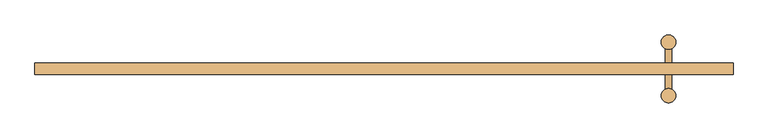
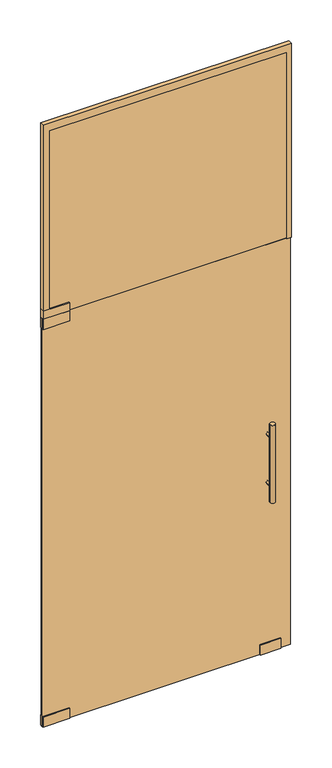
"""IFC4 building model written with IfcOpenShell, lengths in millimetres: door geometry, V03 VIDRIO PUERTA BATIENTE VIDRIO FIJO SUPERIOR : V03.2 VIDRIO PUERTA BATIENTE VIDRIO FIJO SUPERIOR 105x310."""

from ifc_helpers import new_model, si_unit, point, frame, frame_2d, origin, origin_with_axes, place, context, project, spatial, polyline, circle_curve, trimmed, segment, composite_curve, outline, extrude, source, transform, mapped, element, save


def door_8208235d(model_context):
    return source(origin(), model_context, "Body", "SweptSolid", [
        extrude(outline(polyline([(-665.0, -10.0), (-795.0, -10.0), (-795.0, 10.0), (-665.0, 10.0), (-665.0, -10.0)])), frame((0.0, 0.0, 2048.0), z_axis=(0.0, 0.0, 1.0), x_axis=(1.0, 0.0, 0.0)), (0.0, 0.0, 1.0), 52.0),
        extrude(outline(polyline([(-665.0, -10.0), (-795.0, -10.0), (-795.0, 10.0), (-665.0, 10.0), (-665.0, -10.0)])), frame((0.0, 0.0, 2100.0), z_axis=(0.0, 0.0, 1.0), x_axis=(1.0, 0.0, 0.0)), (0.0, 0.0, 1.0), 42.0),
        extrude(outline(composite_curve([segment(trimmed(circle_curve(frame_2d((1125.0, 303.0)), 6.0), [point((1125.0, 297.0))], [point((1125.0, 309.0))], False, "CARTESIAN"), True, "CONTINUOUS"), segment(trimmed(circle_curve(frame_2d((1125.0, 303.0)), 6.0), [point((1125.0, 309.0))], [point((1125.0, 297.0))], False, "CARTESIAN"), True, "CONTINUOUS")], self_intersect=False)), frame((0.0, -36.0, 0.0), z_axis=(0.0, 1.0, 0.0), x_axis=(0.0, 0.0, 1.0)), (0.0, 0.0, 1.0), 72.0),
        extrude(outline(composite_curve([segment(trimmed(circle_curve(frame_2d((875.0, 303.0)), 6.0), [point((875.0, 297.0))], [point((875.0, 309.0))], False, "CARTESIAN"), True, "CONTINUOUS"), segment(trimmed(circle_curve(frame_2d((875.0, 303.0)), 6.0), [point((875.0, 309.0))], [point((875.0, 297.0))], False, "CARTESIAN"), True, "CONTINUOUS")], self_intersect=False)), frame((0.0, -36.0, 0.0), z_axis=(0.0, 1.0, 0.0), x_axis=(0.0, 0.0, 1.0)), (0.0, 0.0, 1.0), 72.0),
        extrude(outline(composite_curve([segment(trimmed(circle_curve(frame_2d((303.0, 46.5)), 12.5), [point((290.5, 46.5))], [point((315.5, 46.5))], False, "CARTESIAN"), True, "CONTINUOUS"), segment(trimmed(circle_curve(frame_2d((303.0, 46.5)), 12.5), [point((315.5, 46.5))], [point((290.5, 46.5))], False, "CARTESIAN"), True, "CONTINUOUS")], self_intersect=False)), frame((0.0, 0.0, 800.0), z_axis=(0.0, 0.0, 1.0), x_axis=(1.0, 0.0, 0.0)), (0.0, 0.0, 1.0), 400.0),
        extrude(outline(composite_curve([segment(trimmed(circle_curve(frame_2d((303.0, -46.5)), 12.5), [point((290.5, -46.5))], [point((315.5, -46.5))], False, "CARTESIAN"), True, "CONTINUOUS"), segment(trimmed(circle_curve(frame_2d((303.0, -46.5)), 12.5), [point((315.5, -46.5))], [point((290.5, -46.5))], False, "CARTESIAN"), True, "CONTINUOUS")], self_intersect=False)), frame((0.0, 0.0, 800.0), z_axis=(0.0, 0.0, 1.0), x_axis=(1.0, 0.0, 0.0)), (0.0, 0.0, 1.0), 400.0),
        extrude(outline(polyline([(365.0, -10.0), (265.0, -10.0), (265.0, 10.0), (365.0, 10.0), (365.0, -10.0)])), origin_with_axes(), (0.0, 0.0, 1.0), 52.0),
        extrude(outline(polyline([(-665.0, -10.0), (-795.0, -10.0), (-795.0, 10.0), (-665.0, 10.0), (-665.0, -10.0)])), origin_with_axes(), (0.0, 0.0, 1.0), 52.0),
        extrude(outline(polyline([(3060.0, 395.0), (3060.0, -764.0052778), (2120.0, -764.0052778), (2100.0, -764.0052778), (2100.0, 395.0), (3060.0, 395.0)])), frame((0.0, -5.0, 0.0), z_axis=(0.0, 1.0, 0.0), x_axis=(0.0, 0.0, 1.0)), (0.0, 0.0, 1.0), 10.0),
        extrude(outline(polyline([(3100.0, -795.0), (2120.0, -795.0), (2120.0, -764.0052778), (3060.0, -764.0052778), (3060.0, 395.0), (2100.0, 395.0), (2100.0, 415.0), (3100.0, 415.0), (3100.0, -795.0)])), frame((0.0, -10.0, 0.0), z_axis=(0.0, 1.0, 0.0), x_axis=(0.0, 0.0, 1.0)), (0.0, 0.0, 1.0), 20.0),
        extrude(outline(polyline([(415.0, -5.0), (-795.0, -5.0), (-795.0, 5.0), (415.0, 5.0), (415.0, -5.0)])), origin_with_axes(), (0.0, 0.0, 1.0), 2100.0),
    ])


if __name__ == "__main__":
    model = new_model("IFC4")
    model_context = context("Model", 3, world=origin())
    ifc_project = project(units=[si_unit("LENGTHUNIT", "METRE", prefix="MILLI")], contexts=[model_context])
    site = spatial("IfcSite", under=ifc_project)
    building = spatial("IfcBuilding", under=site)
    placement = place(None, origin())
    door_shape = door_8208235d(model_context)
    element("IfcDoor", 1, ObjectType="V03 VIDRIO PUERTA BATIENTE VIDRIO FIJO SUPERIOR : V03.2 VIDRIO PUERTA BATIENTE VIDRIO FIJO SUPERIOR 105x310", at=placement, inside=building, context=model_context, shape_type="MappedRepresentation", body=[
        mapped(door_shape, transform((0.0, 0.0, 0.0), x_axis=(1.0, 0.0, 0.0), y_axis=(0.0, 1.0, 0.0), z_axis=(0.0, 0.0, 1.0))),
    ])
    save(model, "model.ifc")
